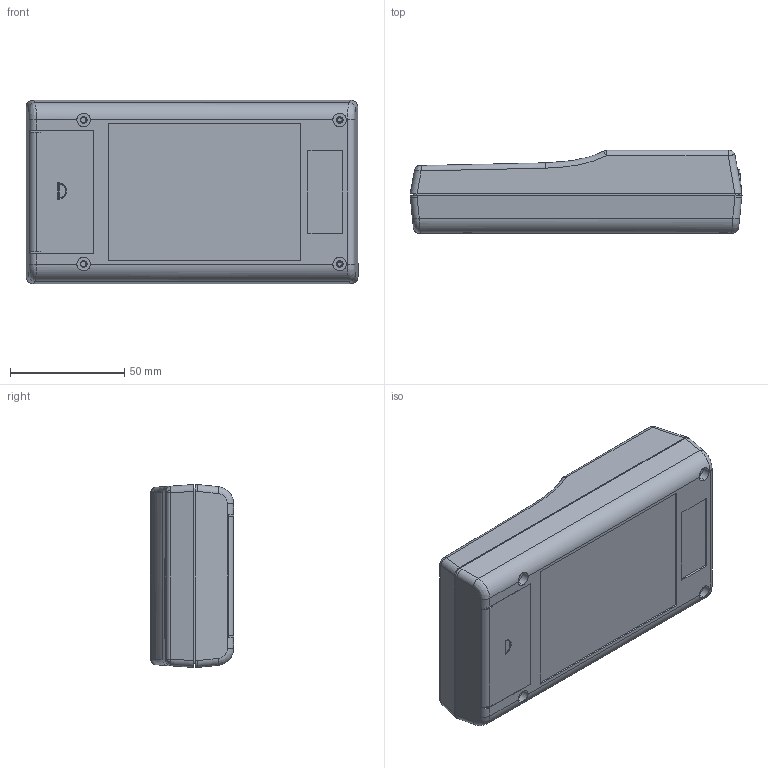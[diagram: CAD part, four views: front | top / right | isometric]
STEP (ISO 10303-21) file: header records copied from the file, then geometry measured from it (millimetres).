
FILE_DESCRIPTION (( 'STEP AP214' ), '1' );
FILE_NAME ('MLCD-017.STEP', '2022-03-02T20:40:46', ( 'rfkube@comcast.net' ), ( '' ), 'SwSTEP 2.0', 'SolidWorks 2016', '' );
FILE_SCHEMA (( 'AUTOMOTIVE_DESIGN' ));
Length unit declared in the file: millimetre
Products named in the file (4): SLCD Top; SLD Door; MLCD-017; SLCD-Bottom
Assembly tree (3 placements, depth 2):
  MLCD-017
    SLCD-Bottom
    SLCD Top
    SLD Door
Bounding box: 145.21 x 36.4 x 80.21 mm (x, y, z)
Volume: 78928.3 mm3; surface area: 79514 mm2
Topology: 4 solids, 4 shells, 497 faces, 1307 edges, 845 vertices
Faces by surface type: plane 313, cylinder 126, cone 26, bspline 26, torus 4, sphere 2
Entity records: 16151 total; most frequent: CARTESIAN_POINT 3917, ORIENTED_EDGE 2614, DIRECTION 2389, EDGE_CURVE 1307, VECTOR 885, LINE 885, VERTEX_POINT 845, AXIS2_PLACEMENT_3D 752
